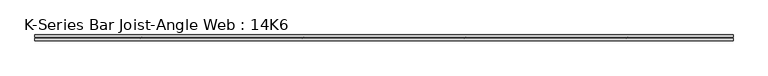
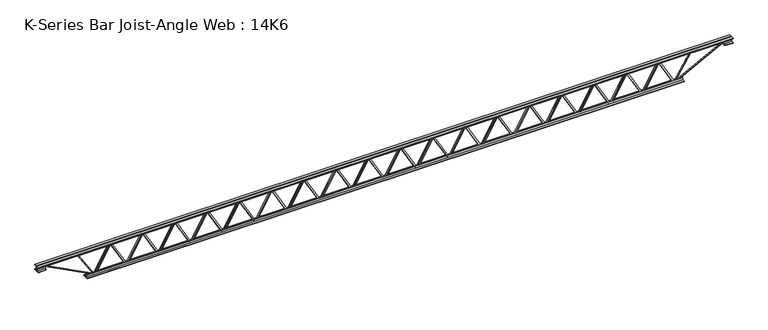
"""IFC4 building model written with IfcOpenShell, lengths in millimetres: beam geometry, K-Series Bar Joist-Angle Web : 14K6."""

from ifc_helpers import new_model, si_unit, frame, origin, place, context, project, spatial, polyline, outline, extrude, faceted_brep, source, transform, mapped, element, save


def k_series_bar_joist_angle_web_14k6_9ea650d1(model_context):
    return source(origin(), model_context, "Body", "SolidModel", [
        extrude(outline(polyline([(-4.7625, 4.7625), (-4.7625, 0.0), (-17.4625, 0.0), (-17.4625, 4.7625), (-4.7625, 4.7625)])), frame((3174.3016592, 0.0, -139.7), z_axis=(-0.4941370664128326, 0.0, 0.8693840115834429), x_axis=(0.0, -1.0, 0.0)), (0.0, 0.0, 1.0), 321.3769707),
        extrude(outline(polyline([(-174.625, 3206.0444444), (-155.575, 3206.0444444), (-155.575, 3205.2366955), (174.625, 3017.5589177), (174.625, 2999.3166667), (155.575, 2999.3166667), (155.575, 3006.4744156), (-174.625, 3194.1521934), (-174.625, 3206.0444444)])), frame((0.0, 0.0, 0.0), z_axis=(0.0, 1.0, 0.0), x_axis=(0.0, 0.0, 1.0)), (0.0, 0.0, 1.0), 4.7625),
        faceted_brep([(2805.2888889, 0.0, -155.575), (2805.2888889, 0.0, -174.625), (2805.2888889, -4.7625, -174.625), (2805.2888889, -4.7625, -155.575), (2806.0966378, 0.0, -155.575), (2993.7744156, 0.0, 174.625), (3012.0166667, 0.0, 174.625), (3012.0166667, 0.0, 155.575), (3004.8589177, 0.0, 155.575), (2817.1811399, 0.0, -174.625), (2817.1811399, -4.7625, -174.625), (2837.0316741, -4.7625, -139.7), (2832.8912328, -4.7625, -137.3466722), (2991.6955063, -4.7625, 142.0533278), (2995.8359476, -4.7625, 139.7), (3004.8589177, -4.7625, 155.575), (3012.0166667, -4.7625, 155.575), (3012.0166667, -4.7625, 174.625), (2993.7744156, -4.7625, 174.625), (2806.0966378, -4.7625, -155.575), (2995.8359476, -17.4625, 139.7), (2837.0316741, -17.4625, -139.7), (2832.8912328, -17.4625, -137.3466722), (2991.6955063, -17.4625, 142.0533278)], [[[0, 1, 2, 3]], [[1, 0, 4, 5, 6, 7, 8, 9]], [[2, 1, 9, 10]], [[3, 2, 10, 11, 12, 13, 14, 15, 16, 17, 18, 19]], [[0, 3, 19, 4]], [[9, 8, 15, 14, 20, 21, 11, 10]], [[5, 4, 19, 18]], [[7, 6, 17, 16]], [[8, 7, 16, 15]], [[6, 5, 18, 17]], [[21, 22, 12, 11]], [[20, 14, 13, 23]], [[22, 21, 20, 23]], [[12, 22, 23, 13]]]),
        extrude(outline(polyline([(-4.7625, 4.7625), (-4.7625, 0.0), (-17.4625, 0.0), (-17.4625, 4.7625), (-4.7625, 4.7625)])), frame((2773.5461037, 0.0, -139.7), z_axis=(-0.4941370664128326, 0.0, 0.8693840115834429), x_axis=(0.0, -1.0, 0.0)), (0.0, 0.0, 1.0), 321.3769707),
        extrude(outline(polyline([(-174.625, 2805.2888889), (-155.575, 2805.2888889), (-155.575, 2804.4811399), (174.625, 2616.8033622), (174.625, 2598.5611111), (155.575, 2598.5611111), (155.575, 2605.7188601), (-174.625, 2793.3966378), (-174.625, 2805.2888889)])), frame((0.0, 0.0, 0.0), z_axis=(0.0, 1.0, 0.0), x_axis=(0.0, 0.0, 1.0)), (0.0, 0.0, 1.0), 4.7625),
        faceted_brep([(2404.5333333, 0.0, -155.575), (2404.5333333, 0.0, -174.625), (2404.5333333, -4.7625, -174.625), (2404.5333333, -4.7625, -155.575), (2405.3410823, 0.0, -155.575), (2593.0188601, 0.0, 174.625), (2611.2611111, 0.0, 174.625), (2611.2611111, 0.0, 155.575), (2604.1033622, 0.0, 155.575), (2416.4255844, 0.0, -174.625), (2416.4255844, -4.7625, -174.625), (2436.2761186, -4.7625, -139.7), (2432.1356772, -4.7625, -137.3466722), (2590.9399507, -4.7625, 142.0533278), (2595.0803921, -4.7625, 139.7), (2604.1033622, -4.7625, 155.575), (2611.2611111, -4.7625, 155.575), (2611.2611111, -4.7625, 174.625), (2593.0188601, -4.7625, 174.625), (2405.3410823, -4.7625, -155.575), (2595.0803921, -17.4625, 139.7), (2436.2761186, -17.4625, -139.7), (2432.1356772, -17.4625, -137.3466722), (2590.9399507, -17.4625, 142.0533278)], [[[0, 1, 2, 3]], [[1, 0, 4, 5, 6, 7, 8, 9]], [[2, 1, 9, 10]], [[3, 2, 10, 11, 12, 13, 14, 15, 16, 17, 18, 19]], [[0, 3, 19, 4]], [[9, 8, 15, 14, 20, 21, 11, 10]], [[5, 4, 19, 18]], [[7, 6, 17, 16]], [[8, 7, 16, 15]], [[6, 5, 18, 17]], [[21, 22, 12, 11]], [[20, 14, 13, 23]], [[22, 21, 20, 23]], [[12, 22, 23, 13]]]),
        extrude(outline(polyline([(-4.7625, 4.7625), (-4.7625, 0.0), (-17.4625, 0.0), (-17.4625, 4.7625), (-4.7625, 4.7625)])), frame((2372.7905481, 0.0, -139.7), z_axis=(-0.4941370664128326, 0.0, 0.8693840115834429), x_axis=(0.0, -1.0, 0.0)), (0.0, 0.0, 1.0), 321.3769707),
        extrude(outline(polyline([(-174.625, 2404.5333333), (-155.575, 2404.5333333), (-155.575, 2403.7255844), (174.625, 2216.0478066), (174.625, 2197.8055556), (155.575, 2197.8055556), (155.575, 2204.9633045), (-174.625, 2392.6410823), (-174.625, 2404.5333333)])), frame((0.0, 0.0, 0.0), z_axis=(0.0, 1.0, 0.0), x_axis=(0.0, 0.0, 1.0)), (0.0, 0.0, 1.0), 4.7625),
        faceted_brep([(2003.7777778, 0.0, -155.575), (2003.7777778, 0.0, -174.625), (2003.7777778, -4.7625, -174.625), (2003.7777778, -4.7625, -155.575), (2004.5855267, 0.0, -155.575), (2192.2633045, 0.0, 174.625), (2210.5055556, 0.0, 174.625), (2210.5055556, 0.0, 155.575), (2203.3478066, 0.0, 155.575), (2015.6700288, 0.0, -174.625), (2015.6700288, -4.7625, -174.625), (2035.520563, -4.7625, -139.7), (2031.3801217, -4.7625, -137.3466722), (2190.1843952, -4.7625, 142.0533278), (2194.3248365, -4.7625, 139.7), (2203.3478066, -4.7625, 155.575), (2210.5055556, -4.7625, 155.575), (2210.5055556, -4.7625, 174.625), (2192.2633045, -4.7625, 174.625), (2004.5855267, -4.7625, -155.575), (2194.3248365, -17.4625, 139.7), (2035.520563, -17.4625, -139.7), (2031.3801217, -17.4625, -137.3466722), (2190.1843952, -17.4625, 142.0533278)], [[[0, 1, 2, 3]], [[1, 0, 4, 5, 6, 7, 8, 9]], [[2, 1, 9, 10]], [[3, 2, 10, 11, 12, 13, 14, 15, 16, 17, 18, 19]], [[0, 3, 19, 4]], [[9, 8, 15, 14, 20, 21, 11, 10]], [[5, 4, 19, 18]], [[7, 6, 17, 16]], [[8, 7, 16, 15]], [[6, 5, 18, 17]], [[21, 22, 12, 11]], [[20, 14, 13, 23]], [[22, 21, 20, 23]], [[12, 22, 23, 13]]]),
        extrude(outline(polyline([(-4.7625, 4.7625), (-4.7625, 0.0), (-17.4625, 0.0), (-17.4625, 4.7625), (-4.7625, 4.7625)])), frame((1972.0349925, 0.0, -139.7), z_axis=(-0.4941370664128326, 0.0, 0.8693840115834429), x_axis=(0.0, -1.0, 0.0)), (0.0, 0.0, 1.0), 321.3769707),
        extrude(outline(polyline([(-174.625, 2003.7777778), (-155.575, 2003.7777778), (-155.575, 2002.9700288), (174.625, 1815.292251), (174.625, 1797.05), (155.575, 1797.05), (155.575, 1804.207749), (-174.625, 1991.8855267), (-174.625, 2003.7777778)])), frame((0.0, 0.0, 0.0), z_axis=(0.0, 1.0, 0.0), x_axis=(0.0, 0.0, 1.0)), (0.0, 0.0, 1.0), 4.7625),
        faceted_brep([(1603.0222222, 0.0, -155.575), (1603.0222222, 0.0, -174.625), (1603.0222222, -4.7625, -174.625), (1603.0222222, -4.7625, -155.575), (1603.8299712, 0.0, -155.575), (1791.507749, 0.0, 174.625), (1809.75, 0.0, 174.625), (1809.75, 0.0, 155.575), (1802.592251, 0.0, 155.575), (1614.9144733, 0.0, -174.625), (1614.9144733, -4.7625, -174.625), (1634.7650075, -4.7625, -139.7), (1630.6245661, -4.7625, -137.3466722), (1789.4288396, -4.7625, 142.0533278), (1793.569281, -4.7625, 139.7), (1802.592251, -4.7625, 155.575), (1809.75, -4.7625, 155.575), (1809.75, -4.7625, 174.625), (1791.507749, -4.7625, 174.625), (1603.8299712, -4.7625, -155.575), (1793.569281, -17.4625, 139.7), (1634.7650075, -17.4625, -139.7), (1630.6245661, -17.4625, -137.3466722), (1789.4288396, -17.4625, 142.0533278)], [[[0, 1, 2, 3]], [[1, 0, 4, 5, 6, 7, 8, 9]], [[2, 1, 9, 10]], [[3, 2, 10, 11, 12, 13, 14, 15, 16, 17, 18, 19]], [[0, 3, 19, 4]], [[9, 8, 15, 14, 20, 21, 11, 10]], [[5, 4, 19, 18]], [[7, 6, 17, 16]], [[8, 7, 16, 15]], [[6, 5, 18, 17]], [[21, 22, 12, 11]], [[20, 14, 13, 23]], [[22, 21, 20, 23]], [[12, 22, 23, 13]]]),
        extrude(outline(polyline([(-4.7625, 4.7625), (-4.7625, 0.0), (-17.4625, 0.0), (-17.4625, 4.7625), (-4.7625, 4.7625)])), frame((1571.279437, 0.0, -139.7), z_axis=(-0.4941370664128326, 0.0, 0.8693840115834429), x_axis=(0.0, -1.0, 0.0)), (0.0, 0.0, 1.0), 321.3769707),
        extrude(outline(polyline([(-174.625, 1603.0222222), (-155.575, 1603.0222222), (-155.575, 1602.2144733), (174.625, 1414.5366955), (174.625, 1396.2944444), (155.575, 1396.2944444), (155.575, 1403.4521934), (-174.625, 1591.1299712), (-174.625, 1603.0222222)])), frame((0.0, 0.0, 0.0), z_axis=(0.0, 1.0, 0.0), x_axis=(0.0, 0.0, 1.0)), (0.0, 0.0, 1.0), 4.7625),
        faceted_brep([(1202.2666667, 0.0, -155.575), (1202.2666667, 0.0, -174.625), (1202.2666667, -4.7625, -174.625), (1202.2666667, -4.7625, -155.575), (1203.0744156, 0.0, -155.575), (1390.7521934, 0.0, 174.625), (1408.9944444, 0.0, 174.625), (1408.9944444, 0.0, 155.575), (1401.8366955, 0.0, 155.575), (1214.1589177, 0.0, -174.625), (1214.1589177, -4.7625, -174.625), (1234.0094519, -4.7625, -139.7), (1229.8690105, -4.7625, -137.3466722), (1388.673284, -4.7625, 142.0533278), (1392.8137254, -4.7625, 139.7), (1401.8366955, -4.7625, 155.575), (1408.9944444, -4.7625, 155.575), (1408.9944444, -4.7625, 174.625), (1390.7521934, -4.7625, 174.625), (1203.0744156, -4.7625, -155.575), (1392.8137254, -17.4625, 139.7), (1234.0094519, -17.4625, -139.7), (1229.8690105, -17.4625, -137.3466722), (1388.673284, -17.4625, 142.0533278)], [[[0, 1, 2, 3]], [[1, 0, 4, 5, 6, 7, 8, 9]], [[2, 1, 9, 10]], [[3, 2, 10, 11, 12, 13, 14, 15, 16, 17, 18, 19]], [[0, 3, 19, 4]], [[9, 8, 15, 14, 20, 21, 11, 10]], [[5, 4, 19, 18]], [[7, 6, 17, 16]], [[8, 7, 16, 15]], [[6, 5, 18, 17]], [[21, 22, 12, 11]], [[20, 14, 13, 23]], [[22, 21, 20, 23]], [[12, 22, 23, 13]]]),
        extrude(outline(polyline([(-4.7625, 4.7625), (-4.7625, 0.0), (-17.4625, 0.0), (-17.4625, 4.7625), (-4.7625, 4.7625)])), frame((1170.5238814, 0.0, -139.7), z_axis=(-0.4941370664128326, 0.0, 0.8693840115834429), x_axis=(0.0, -1.0, 0.0)), (0.0, 0.0, 1.0), 321.3769707),
        extrude(outline(polyline([(-174.625, 1202.2666667), (-155.575, 1202.2666667), (-155.575, 1201.4589177), (174.625, 1013.7811399), (174.625, 995.5388889), (155.575, 995.5388889), (155.575, 1002.6966378), (-174.625, 1190.3744156), (-174.625, 1202.2666667)])), frame((0.0, 0.0, 0.0), z_axis=(0.0, 1.0, 0.0), x_axis=(0.0, 0.0, 1.0)), (0.0, 0.0, 1.0), 4.7625),
        faceted_brep([(801.5111111, 0.0, -155.575), (801.5111111, 0.0, -174.625), (801.5111111, -4.7625, -174.625), (801.5111111, -4.7625, -155.575), (802.3188601, 0.0, -155.575), (989.9966378, 0.0, 174.625), (1008.2388889, 0.0, 174.625), (1008.2388889, 0.0, 155.575), (1001.0811399, 0.0, 155.575), (813.4033622, 0.0, -174.625), (813.4033622, -4.7625, -174.625), (833.2538963, -4.7625, -139.7), (829.113455, -4.7625, -137.3466722), (987.9177285, -4.7625, 142.0533278), (992.0581698, -4.7625, 139.7), (1001.0811399, -4.7625, 155.575), (1008.2388889, -4.7625, 155.575), (1008.2388889, -4.7625, 174.625), (989.9966378, -4.7625, 174.625), (802.3188601, -4.7625, -155.575), (992.0581698, -17.4625, 139.7), (833.2538963, -17.4625, -139.7), (829.113455, -17.4625, -137.3466722), (987.9177285, -17.4625, 142.0533278)], [[[0, 1, 2, 3]], [[1, 0, 4, 5, 6, 7, 8, 9]], [[2, 1, 9, 10]], [[3, 2, 10, 11, 12, 13, 14, 15, 16, 17, 18, 19]], [[0, 3, 19, 4]], [[9, 8, 15, 14, 20, 21, 11, 10]], [[5, 4, 19, 18]], [[7, 6, 17, 16]], [[8, 7, 16, 15]], [[6, 5, 18, 17]], [[21, 22, 12, 11]], [[20, 14, 13, 23]], [[22, 21, 20, 23]], [[12, 22, 23, 13]]]),
        extrude(outline(polyline([(-4.7625, 4.7625), (-4.7625, 0.0), (-17.4625, 0.0), (-17.4625, 4.7625), (-4.7625, 4.7625)])), frame((769.7683259, 0.0, -139.7), z_axis=(-0.4941370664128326, 0.0, 0.8693840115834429), x_axis=(0.0, -1.0, 0.0)), (0.0, 0.0, 1.0), 321.3769707),
        extrude(outline(polyline([(-174.625, 801.5111111), (-155.575, 801.5111111), (-155.575, 800.7033622), (174.625, 613.0255844), (174.625, 594.7833333), (155.575, 594.7833333), (155.575, 601.9410823), (-174.625, 789.6188601), (-174.625, 801.5111111)])), frame((0.0, 0.0, 0.0), z_axis=(0.0, 1.0, 0.0), x_axis=(0.0, 0.0, 1.0)), (0.0, 0.0, 1.0), 4.7625),
        faceted_brep([(400.7555556, 0.0, -155.575), (400.7555556, 0.0, -174.625), (400.7555556, -4.7625, -174.625), (400.7555556, -4.7625, -155.575), (401.5633045, 0.0, -155.575), (589.2410823, 0.0, 174.625), (607.4833333, 0.0, 174.625), (607.4833333, 0.0, 155.575), (600.3255844, 0.0, 155.575), (412.6478066, 0.0, -174.625), (412.6478066, -4.7625, -174.625), (432.4983408, -4.7625, -139.7), (428.3578994, -4.7625, -137.3466722), (587.1621729, -4.7625, 142.0533278), (591.3026143, -4.7625, 139.7), (600.3255844, -4.7625, 155.575), (607.4833333, -4.7625, 155.575), (607.4833333, -4.7625, 174.625), (589.2410823, -4.7625, 174.625), (401.5633045, -4.7625, -155.575), (591.3026143, -17.4625, 139.7), (432.4983408, -17.4625, -139.7), (428.3578994, -17.4625, -137.3466722), (587.1621729, -17.4625, 142.0533278)], [[[0, 1, 2, 3]], [[1, 0, 4, 5, 6, 7, 8, 9]], [[2, 1, 9, 10]], [[3, 2, 10, 11, 12, 13, 14, 15, 16, 17, 18, 19]], [[0, 3, 19, 4]], [[9, 8, 15, 14, 20, 21, 11, 10]], [[5, 4, 19, 18]], [[7, 6, 17, 16]], [[8, 7, 16, 15]], [[6, 5, 18, 17]], [[21, 22, 12, 11]], [[20, 14, 13, 23]], [[22, 21, 20, 23]], [[12, 22, 23, 13]]]),
        extrude(outline(polyline([(-4.7625, 4.7625), (-4.7625, 0.0), (-17.4625, 0.0), (-17.4625, 4.7625), (-4.7625, 4.7625)])), frame((369.0127703, 0.0, -139.7), z_axis=(-0.4941370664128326, 0.0, 0.8693840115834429), x_axis=(0.0, -1.0, 0.0)), (0.0, 0.0, 1.0), 321.3769707),
        extrude(outline(polyline([(-174.625, 400.7555556), (-155.575, 400.7555556), (-155.575, 399.9478066), (174.625, 212.2700288), (174.625, 194.0277778), (155.575, 194.0277778), (155.575, 201.1855267), (-174.625, 388.8633045), (-174.625, 400.7555556)])), frame((0.0, 0.0, 0.0), z_axis=(0.0, 1.0, 0.0), x_axis=(0.0, 0.0, 1.0)), (0.0, 0.0, 1.0), 4.7625),
        faceted_brep([(0.0, 0.0, -155.575), (0.0, 0.0, -174.625), (0.0, -4.7625, -174.625), (0.0, -4.7625, -155.575), (0.807749, 0.0, -155.575), (188.4855267, 0.0, 174.625), (206.7277778, 0.0, 174.625), (206.7277778, 0.0, 155.575), (199.5700288, 0.0, 155.575), (11.892251, 0.0, -174.625), (11.892251, -4.7625, -174.625), (31.7427852, -4.7625, -139.7), (27.6023439, -4.7625, -137.3466722), (186.4066174, -4.7625, 142.0533278), (190.5470587, -4.7625, 139.7), (199.5700288, -4.7625, 155.575), (206.7277778, -4.7625, 155.575), (206.7277778, -4.7625, 174.625), (188.4855267, -4.7625, 174.625), (0.807749, -4.7625, -155.575), (190.5470587, -17.4625, 139.7), (31.7427852, -17.4625, -139.7), (27.6023439, -17.4625, -137.3466722), (186.4066174, -17.4625, 142.0533278)], [[[0, 1, 2, 3]], [[1, 0, 4, 5, 6, 7, 8, 9]], [[2, 1, 9, 10]], [[3, 2, 10, 11, 12, 13, 14, 15, 16, 17, 18, 19]], [[0, 3, 19, 4]], [[9, 8, 15, 14, 20, 21, 11, 10]], [[5, 4, 19, 18]], [[7, 6, 17, 16]], [[8, 7, 16, 15]], [[6, 5, 18, 17]], [[21, 22, 12, 11]], [[20, 14, 13, 23]], [[22, 21, 20, 23]], [[12, 22, 23, 13]]]),
        extrude(outline(polyline([(-4.7625, 4.7625), (-4.7625, 0.0), (-17.4625, 0.0), (-17.4625, 4.7625), (-4.7625, 4.7625)])), frame((-31.7427852, 0.0, -139.7), z_axis=(-0.4941370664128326, 0.0, 0.8693840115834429), x_axis=(0.0, -1.0, 0.0)), (0.0, 0.0, 1.0), 321.3769707),
        extrude(outline(polyline([(-174.625, 0.0), (-155.575, 0.0), (-155.575, -0.807749), (174.625, -188.4855267), (174.625, -206.7277778), (155.575, -206.7277778), (155.575, -199.5700288), (-174.625, -11.892251), (-174.625, 0.0)])), frame((0.0, 0.0, 0.0), z_axis=(0.0, 1.0, 0.0), x_axis=(0.0, 0.0, 1.0)), (0.0, 0.0, 1.0), 4.7625),
        faceted_brep([(-400.7555556, 0.0, -155.575), (-400.7555556, 0.0, -174.625), (-400.7555556, -4.7625, -174.625), (-400.7555556, -4.7625, -155.575), (-399.9478066, 0.0, -155.575), (-212.2700288, 0.0, 174.625), (-194.0277778, 0.0, 174.625), (-194.0277778, 0.0, 155.575), (-201.1855267, 0.0, 155.575), (-388.8633045, 0.0, -174.625), (-388.8633045, -4.7625, -174.625), (-369.0127703, -4.7625, -139.7), (-373.1532117, -4.7625, -137.3466722), (-214.3489382, -4.7625, 142.0533278), (-210.2084968, -4.7625, 139.7), (-201.1855267, -4.7625, 155.575), (-194.0277778, -4.7625, 155.575), (-194.0277778, -4.7625, 174.625), (-212.2700288, -4.7625, 174.625), (-399.9478066, -4.7625, -155.575), (-210.2084968, -17.4625, 139.7), (-369.0127703, -17.4625, -139.7), (-373.1532117, -17.4625, -137.3466722), (-214.3489382, -17.4625, 142.0533278)], [[[0, 1, 2, 3]], [[1, 0, 4, 5, 6, 7, 8, 9]], [[2, 1, 9, 10]], [[3, 2, 10, 11, 12, 13, 14, 15, 16, 17, 18, 19]], [[0, 3, 19, 4]], [[9, 8, 15, 14, 20, 21, 11, 10]], [[5, 4, 19, 18]], [[7, 6, 17, 16]], [[8, 7, 16, 15]], [[6, 5, 18, 17]], [[21, 22, 12, 11]], [[20, 14, 13, 23]], [[22, 21, 20, 23]], [[12, 22, 23, 13]]]),
        extrude(outline(polyline([(-4.7625, 4.7625), (-4.7625, 0.0), (-17.4625, 0.0), (-17.4625, 4.7625), (-4.7625, 4.7625)])), frame((-432.4983408, 0.0, -139.7), z_axis=(-0.4941370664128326, 0.0, 0.8693840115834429), x_axis=(0.0, -1.0, 0.0)), (0.0, 0.0, 1.0), 321.3769707),
        extrude(outline(polyline([(-174.625, -400.7555556), (-155.575, -400.7555556), (-155.575, -401.5633045), (174.625, -589.2410823), (174.625, -607.4833333), (155.575, -607.4833333), (155.575, -600.3255844), (-174.625, -412.6478066), (-174.625, -400.7555556)])), frame((0.0, 0.0, 0.0), z_axis=(0.0, 1.0, 0.0), x_axis=(0.0, 0.0, 1.0)), (0.0, 0.0, 1.0), 4.7625),
        faceted_brep([(-801.5111111, 0.0, -155.575), (-801.5111111, 0.0, -174.625), (-801.5111111, -4.7625, -174.625), (-801.5111111, -4.7625, -155.575), (-800.7033622, 0.0, -155.575), (-613.0255844, 0.0, 174.625), (-594.7833333, 0.0, 174.625), (-594.7833333, 0.0, 155.575), (-601.9410823, 0.0, 155.575), (-789.6188601, 0.0, -174.625), (-789.6188601, -4.7625, -174.625), (-769.7683259, -4.7625, -139.7), (-773.9087672, -4.7625, -137.3466722), (-615.1044937, -4.7625, 142.0533278), (-610.9640524, -4.7625, 139.7), (-601.9410823, -4.7625, 155.575), (-594.7833333, -4.7625, 155.575), (-594.7833333, -4.7625, 174.625), (-613.0255844, -4.7625, 174.625), (-800.7033622, -4.7625, -155.575), (-610.9640524, -17.4625, 139.7), (-769.7683259, -17.4625, -139.7), (-773.9087672, -17.4625, -137.3466722), (-615.1044937, -17.4625, 142.0533278)], [[[0, 1, 2, 3]], [[1, 0, 4, 5, 6, 7, 8, 9]], [[2, 1, 9, 10]], [[3, 2, 10, 11, 12, 13, 14, 15, 16, 17, 18, 19]], [[0, 3, 19, 4]], [[9, 8, 15, 14, 20, 21, 11, 10]], [[5, 4, 19, 18]], [[7, 6, 17, 16]], [[8, 7, 16, 15]], [[6, 5, 18, 17]], [[21, 22, 12, 11]], [[20, 14, 13, 23]], [[22, 21, 20, 23]], [[12, 22, 23, 13]]]),
        extrude(outline(polyline([(-4.7625, 4.7625), (-4.7625, 0.0), (-17.4625, 0.0), (-17.4625, 4.7625), (-4.7625, 4.7625)])), frame((-833.2538963, 0.0, -139.7), z_axis=(-0.4941370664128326, 0.0, 0.8693840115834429), x_axis=(0.0, -1.0, 0.0)), (0.0, 0.0, 1.0), 321.3769707),
        extrude(outline(polyline([(-174.625, -801.5111111), (-155.575, -801.5111111), (-155.575, -802.3188601), (174.625, -989.9966378), (174.625, -1008.2388889), (155.575, -1008.2388889), (155.575, -1001.0811399), (-174.625, -813.4033622), (-174.625, -801.5111111)])), frame((0.0, 0.0, 0.0), z_axis=(0.0, 1.0, 0.0), x_axis=(0.0, 0.0, 1.0)), (0.0, 0.0, 1.0), 4.7625),
        faceted_brep([(-1202.2666667, 0.0, -155.575), (-1202.2666667, 0.0, -174.625), (-1202.2666667, -4.7625, -174.625), (-1202.2666667, -4.7625, -155.575), (-1201.4589177, 0.0, -155.575), (-1013.7811399, 0.0, 174.625), (-995.5388889, 0.0, 174.625), (-995.5388889, 0.0, 155.575), (-1002.6966378, 0.0, 155.575), (-1190.3744156, 0.0, -174.625), (-1190.3744156, -4.7625, -174.625), (-1170.5238814, -4.7625, -139.7), (-1174.6643228, -4.7625, -137.3466722), (-1015.8600493, -4.7625, 142.0533278), (-1011.7196079, -4.7625, 139.7), (-1002.6966378, -4.7625, 155.575), (-995.5388889, -4.7625, 155.575), (-995.5388889, -4.7625, 174.625), (-1013.7811399, -4.7625, 174.625), (-1201.4589177, -4.7625, -155.575), (-1011.7196079, -17.4625, 139.7), (-1170.5238814, -17.4625, -139.7), (-1174.6643228, -17.4625, -137.3466722), (-1015.8600493, -17.4625, 142.0533278)], [[[0, 1, 2, 3]], [[1, 0, 4, 5, 6, 7, 8, 9]], [[2, 1, 9, 10]], [[3, 2, 10, 11, 12, 13, 14, 15, 16, 17, 18, 19]], [[0, 3, 19, 4]], [[9, 8, 15, 14, 20, 21, 11, 10]], [[5, 4, 19, 18]], [[7, 6, 17, 16]], [[8, 7, 16, 15]], [[6, 5, 18, 17]], [[21, 22, 12, 11]], [[20, 14, 13, 23]], [[22, 21, 20, 23]], [[12, 22, 23, 13]]]),
        extrude(outline(polyline([(-4.7625, 4.7625), (-4.7625, 0.0), (-17.4625, 0.0), (-17.4625, 4.7625), (-4.7625, 4.7625)])), frame((-1234.0094519, 0.0, -139.7), z_axis=(-0.4941370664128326, 0.0, 0.8693840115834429), x_axis=(0.0, -1.0, 0.0)), (0.0, 0.0, 1.0), 321.3769707),
        extrude(outline(polyline([(-174.625, -1202.2666667), (-155.575, -1202.2666667), (-155.575, -1203.0744156), (174.625, -1390.7521934), (174.625, -1408.9944444), (155.575, -1408.9944444), (155.575, -1401.8366955), (-174.625, -1214.1589177), (-174.625, -1202.2666667)])), frame((0.0, 0.0, 0.0), z_axis=(0.0, 1.0, 0.0), x_axis=(0.0, 0.0, 1.0)), (0.0, 0.0, 1.0), 4.7625),
        faceted_brep([(-1603.0222222, 0.0, -155.575), (-1603.0222222, 0.0, -174.625), (-1603.0222222, -4.7625, -174.625), (-1603.0222222, -4.7625, -155.575), (-1602.2144733, 0.0, -155.575), (-1414.5366955, 0.0, 174.625), (-1396.2944444, 0.0, 174.625), (-1396.2944444, 0.0, 155.575), (-1403.4521934, 0.0, 155.575), (-1591.1299712, 0.0, -174.625), (-1591.1299712, -4.7625, -174.625), (-1571.279437, -4.7625, -139.7), (-1575.4198783, -4.7625, -137.3466722), (-1416.6156048, -4.7625, 142.0533278), (-1412.4751635, -4.7625, 139.7), (-1403.4521934, -4.7625, 155.575), (-1396.2944444, -4.7625, 155.575), (-1396.2944444, -4.7625, 174.625), (-1414.5366955, -4.7625, 174.625), (-1602.2144733, -4.7625, -155.575), (-1412.4751635, -17.4625, 139.7), (-1571.279437, -17.4625, -139.7), (-1575.4198783, -17.4625, -137.3466722), (-1416.6156048, -17.4625, 142.0533278)], [[[0, 1, 2, 3]], [[1, 0, 4, 5, 6, 7, 8, 9]], [[2, 1, 9, 10]], [[3, 2, 10, 11, 12, 13, 14, 15, 16, 17, 18, 19]], [[0, 3, 19, 4]], [[9, 8, 15, 14, 20, 21, 11, 10]], [[5, 4, 19, 18]], [[7, 6, 17, 16]], [[8, 7, 16, 15]], [[6, 5, 18, 17]], [[21, 22, 12, 11]], [[20, 14, 13, 23]], [[22, 21, 20, 23]], [[12, 22, 23, 13]]]),
        extrude(outline(polyline([(-4.7625, 4.7625), (-4.7625, 0.0), (-17.4625, 0.0), (-17.4625, 4.7625), (-4.7625, 4.7625)])), frame((-1634.7650075, 0.0, -139.7), z_axis=(-0.4941370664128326, 0.0, 0.8693840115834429), x_axis=(0.0, -1.0, 0.0)), (0.0, 0.0, 1.0), 321.3769707),
        extrude(outline(polyline([(-174.625, -1603.0222222), (-155.575, -1603.0222222), (-155.575, -1603.8299712), (174.625, -1791.507749), (174.625, -1809.75), (155.575, -1809.75), (155.575, -1802.592251), (-174.625, -1614.9144733), (-174.625, -1603.0222222)])), frame((0.0, 0.0, 0.0), z_axis=(0.0, 1.0, 0.0), x_axis=(0.0, 0.0, 1.0)), (0.0, 0.0, 1.0), 4.7625),
        faceted_brep([(-2003.7777778, 0.0, -155.575), (-2003.7777778, 0.0, -174.625), (-2003.7777778, -4.7625, -174.625), (-2003.7777778, -4.7625, -155.575), (-2002.9700288, 0.0, -155.575), (-1815.292251, 0.0, 174.625), (-1797.05, 0.0, 174.625), (-1797.05, 0.0, 155.575), (-1804.207749, 0.0, 155.575), (-1991.8855267, 0.0, -174.625), (-1991.8855267, -4.7625, -174.625), (-1972.0349925, -4.7625, -139.7), (-1976.1754339, -4.7625, -137.3466722), (-1817.3711604, -4.7625, 142.0533278), (-1813.230719, -4.7625, 139.7), (-1804.207749, -4.7625, 155.575), (-1797.05, -4.7625, 155.575), (-1797.05, -4.7625, 174.625), (-1815.292251, -4.7625, 174.625), (-2002.9700288, -4.7625, -155.575), (-1813.230719, -17.4625, 139.7), (-1972.0349925, -17.4625, -139.7), (-1976.1754339, -17.4625, -137.3466722), (-1817.3711604, -17.4625, 142.0533278)], [[[0, 1, 2, 3]], [[1, 0, 4, 5, 6, 7, 8, 9]], [[2, 1, 9, 10]], [[3, 2, 10, 11, 12, 13, 14, 15, 16, 17, 18, 19]], [[0, 3, 19, 4]], [[9, 8, 15, 14, 20, 21, 11, 10]], [[5, 4, 19, 18]], [[7, 6, 17, 16]], [[8, 7, 16, 15]], [[6, 5, 18, 17]], [[21, 22, 12, 11]], [[20, 14, 13, 23]], [[22, 21, 20, 23]], [[12, 22, 23, 13]]]),
        extrude(outline(polyline([(-4.7625, 4.7625), (-4.7625, 0.0), (-17.4625, 0.0), (-17.4625, 4.7625), (-4.7625, 4.7625)])), frame((-2035.520563, 0.0, -139.7), z_axis=(-0.4941370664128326, 0.0, 0.8693840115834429), x_axis=(0.0, -1.0, 0.0)), (0.0, 0.0, 1.0), 321.3769707),
        extrude(outline(polyline([(-174.625, -2003.7777778), (-155.575, -2003.7777778), (-155.575, -2004.5855267), (174.625, -2192.2633045), (174.625, -2210.5055556), (155.575, -2210.5055556), (155.575, -2203.3478066), (-174.625, -2015.6700288), (-174.625, -2003.7777778)])), frame((0.0, 0.0, 0.0), z_axis=(0.0, 1.0, 0.0), x_axis=(0.0, 0.0, 1.0)), (0.0, 0.0, 1.0), 4.7625),
        faceted_brep([(-2404.5333333, 0.0, -155.575), (-2404.5333333, 0.0, -174.625), (-2404.5333333, -4.7625, -174.625), (-2404.5333333, -4.7625, -155.575), (-2403.7255844, 0.0, -155.575), (-2216.0478066, 0.0, 174.625), (-2197.8055556, 0.0, 174.625), (-2197.8055556, 0.0, 155.575), (-2204.9633045, 0.0, 155.575), (-2392.6410823, 0.0, -174.625), (-2392.6410823, -4.7625, -174.625), (-2372.7905481, -4.7625, -139.7), (-2376.9309895, -4.7625, -137.3466722), (-2218.126716, -4.7625, 142.0533278), (-2213.9862746, -4.7625, 139.7), (-2204.9633045, -4.7625, 155.575), (-2197.8055556, -4.7625, 155.575), (-2197.8055556, -4.7625, 174.625), (-2216.0478066, -4.7625, 174.625), (-2403.7255844, -4.7625, -155.575), (-2213.9862746, -17.4625, 139.7), (-2372.7905481, -17.4625, -139.7), (-2376.9309895, -17.4625, -137.3466722), (-2218.126716, -17.4625, 142.0533278)], [[[0, 1, 2, 3]], [[1, 0, 4, 5, 6, 7, 8, 9]], [[2, 1, 9, 10]], [[3, 2, 10, 11, 12, 13, 14, 15, 16, 17, 18, 19]], [[0, 3, 19, 4]], [[9, 8, 15, 14, 20, 21, 11, 10]], [[5, 4, 19, 18]], [[7, 6, 17, 16]], [[8, 7, 16, 15]], [[6, 5, 18, 17]], [[21, 22, 12, 11]], [[20, 14, 13, 23]], [[22, 21, 20, 23]], [[12, 22, 23, 13]]]),
        extrude(outline(polyline([(-4.7625, 4.7625), (-4.7625, 0.0), (-17.4625, 0.0), (-17.4625, 4.7625), (-4.7625, 4.7625)])), frame((-2436.2761186, 0.0, -139.7), z_axis=(-0.4941370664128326, 0.0, 0.8693840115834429), x_axis=(0.0, -1.0, 0.0)), (0.0, 0.0, 1.0), 321.3769707),
        extrude(outline(polyline([(-174.625, -2404.5333333), (-155.575, -2404.5333333), (-155.575, -2405.3410823), (174.625, -2593.0188601), (174.625, -2611.2611111), (155.575, -2611.2611111), (155.575, -2604.1033622), (-174.625, -2416.4255844), (-174.625, -2404.5333333)])), frame((0.0, 0.0, 0.0), z_axis=(0.0, 1.0, 0.0), x_axis=(0.0, 0.0, 1.0)), (0.0, 0.0, 1.0), 4.7625),
        faceted_brep([(-2805.2888889, 0.0, -155.575), (-2805.2888889, 0.0, -174.625), (-2805.2888889, -4.7625, -174.625), (-2805.2888889, -4.7625, -155.575), (-2804.4811399, 0.0, -155.575), (-2616.8033622, 0.0, 174.625), (-2598.5611111, 0.0, 174.625), (-2598.5611111, 0.0, 155.575), (-2605.7188601, 0.0, 155.575), (-2793.3966378, 0.0, -174.625), (-2793.3966378, -4.7625, -174.625), (-2773.5461037, -4.7625, -139.7), (-2777.686545, -4.7625, -137.3466722), (-2618.8822715, -4.7625, 142.0533278), (-2614.7418302, -4.7625, 139.7), (-2605.7188601, -4.7625, 155.575), (-2598.5611111, -4.7625, 155.575), (-2598.5611111, -4.7625, 174.625), (-2616.8033622, -4.7625, 174.625), (-2804.4811399, -4.7625, -155.575), (-2614.7418302, -17.4625, 139.7), (-2773.5461037, -17.4625, -139.7), (-2777.686545, -17.4625, -137.3466722), (-2618.8822715, -17.4625, 142.0533278)], [[[0, 1, 2, 3]], [[1, 0, 4, 5, 6, 7, 8, 9]], [[2, 1, 9, 10]], [[3, 2, 10, 11, 12, 13, 14, 15, 16, 17, 18, 19]], [[0, 3, 19, 4]], [[9, 8, 15, 14, 20, 21, 11, 10]], [[5, 4, 19, 18]], [[7, 6, 17, 16]], [[8, 7, 16, 15]], [[6, 5, 18, 17]], [[21, 22, 12, 11]], [[20, 14, 13, 23]], [[22, 21, 20, 23]], [[12, 22, 23, 13]]]),
        extrude(outline(polyline([(-4.7625, 4.7625), (-4.7625, 0.0), (-17.4625, 0.0), (-17.4625, 4.7625), (-4.7625, 4.7625)])), frame((-2837.0316741, 0.0, -139.7), z_axis=(-0.4941370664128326, 0.0, 0.8693840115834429), x_axis=(0.0, -1.0, 0.0)), (0.0, 0.0, 1.0), 321.3769707),
        extrude(outline(polyline([(-174.625, -2805.2888889), (-155.575, -2805.2888889), (-155.575, -2806.0966378), (174.625, -2993.7744156), (174.625, -3012.0166667), (155.575, -3012.0166667), (155.575, -3004.8589177), (-174.625, -2817.1811399), (-174.625, -2805.2888889)])), frame((0.0, 0.0, 0.0), z_axis=(0.0, 1.0, 0.0), x_axis=(0.0, 0.0, 1.0)), (0.0, 0.0, 1.0), 4.7625),
        faceted_brep([(-3206.0444444, 0.0, -155.575), (-3206.0444444, 0.0, -174.625), (-3206.0444444, -4.7625, -174.625), (-3206.0444444, -4.7625, -155.575), (-3205.2366955, 0.0, -155.575), (-3017.5589177, 0.0, 174.625), (-2999.3166667, 0.0, 174.625), (-2999.3166667, 0.0, 155.575), (-3006.4744156, 0.0, 155.575), (-3194.1521934, 0.0, -174.625), (-3194.1521934, -4.7625, -174.625), (-3174.3016592, -4.7625, -139.7), (-3178.4421006, -4.7625, -137.3466722), (-3019.6378271, -4.7625, 142.0533278), (-3015.4973857, -4.7625, 139.7), (-3006.4744156, -4.7625, 155.575), (-2999.3166667, -4.7625, 155.575), (-2999.3166667, -4.7625, 174.625), (-3017.5589177, -4.7625, 174.625), (-3205.2366955, -4.7625, -155.575), (-3015.4973857, -17.4625, 139.7), (-3174.3016592, -17.4625, -139.7), (-3178.4421006, -17.4625, -137.3466722), (-3019.6378271, -17.4625, 142.0533278)], [[[0, 1, 2, 3]], [[1, 0, 4, 5, 6, 7, 8, 9]], [[2, 1, 9, 10]], [[3, 2, 10, 11, 12, 13, 14, 15, 16, 17, 18, 19]], [[0, 3, 19, 4]], [[9, 8, 15, 14, 20, 21, 11, 10]], [[5, 4, 19, 18]], [[7, 6, 17, 16]], [[8, 7, 16, 15]], [[6, 5, 18, 17]], [[21, 22, 12, 11]], [[20, 14, 13, 23]], [[22, 21, 20, 23]], [[12, 22, 23, 13]]]),
        extrude(outline(polyline([(-4.7625, 4.7625), (-4.7625, 0.0), (-17.4625, 0.0), (-17.4625, 4.7625), (-4.7625, 4.7625)])), frame((3575.0572148, 0.0, -139.7), z_axis=(-0.4941370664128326, 0.0, 0.8693840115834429), x_axis=(0.0, -1.0, 0.0)), (0.0, 0.0, 1.0), 321.3769707),
        extrude(outline(polyline([(-174.625, 3606.8), (-155.575, 3606.8), (-155.575, 3605.992251), (174.625, 3418.3144733), (174.625, 3400.0722222), (155.575, 3400.0722222), (155.575, 3407.2299712), (-174.625, 3594.907749), (-174.625, 3606.8)])), frame((0.0, 0.0, 0.0), z_axis=(0.0, 1.0, 0.0), x_axis=(0.0, 0.0, 1.0)), (0.0, 0.0, 1.0), 4.7625),
        faceted_brep([(3206.0444444, 0.0, -155.575), (3206.0444444, 0.0, -174.625), (3206.0444444, -4.7625, -174.625), (3206.0444444, -4.7625, -155.575), (3206.8521934, 0.0, -155.575), (3394.5299712, 0.0, 174.625), (3412.7722222, 0.0, 174.625), (3412.7722222, 0.0, 155.575), (3405.6144733, 0.0, 155.575), (3217.9366955, 0.0, -174.625), (3217.9366955, -4.7625, -174.625), (3237.7872297, -4.7625, -139.7), (3233.6467883, -4.7625, -137.3466722), (3392.4510618, -4.7625, 142.0533278), (3396.5915032, -4.7625, 139.7), (3405.6144733, -4.7625, 155.575), (3412.7722222, -4.7625, 155.575), (3412.7722222, -4.7625, 174.625), (3394.5299712, -4.7625, 174.625), (3206.8521934, -4.7625, -155.575), (3396.5915032, -17.4625, 139.7), (3237.7872297, -17.4625, -139.7), (3233.6467883, -17.4625, -137.3466722), (3392.4510618, -17.4625, 142.0533278)], [[[0, 1, 2, 3]], [[1, 0, 4, 5, 6, 7, 8, 9]], [[2, 1, 9, 10]], [[3, 2, 10, 11, 12, 13, 14, 15, 16, 17, 18, 19]], [[0, 3, 19, 4]], [[9, 8, 15, 14, 20, 21, 11, 10]], [[5, 4, 19, 18]], [[7, 6, 17, 16]], [[8, 7, 16, 15]], [[6, 5, 18, 17]], [[21, 22, 12, 11]], [[20, 14, 13, 23]], [[22, 21, 20, 23]], [[12, 22, 23, 13]]]),
        extrude(outline(polyline([(-4.7625, 4.7625), (-4.7625, 0.0), (-17.4625, 0.0), (-17.4625, 4.7625), (-4.7625, 4.7625)])), frame((-3237.7872297, 0.0, -139.7), z_axis=(-0.4941370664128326, 0.0, 0.8693840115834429), x_axis=(0.0, -1.0, 0.0)), (0.0, 0.0, 1.0), 321.3769707),
        extrude(outline(polyline([(-174.625, -3206.0444444), (-155.575, -3206.0444444), (-155.575, -3206.8521934), (174.625, -3394.5299712), (174.625, -3412.7722222), (155.575, -3412.7722222), (155.575, -3405.6144733), (-174.625, -3217.9366955), (-174.625, -3206.0444444)])), frame((0.0, 0.0, 0.0), z_axis=(0.0, 1.0, 0.0), x_axis=(0.0, 0.0, 1.0)), (0.0, 0.0, 1.0), 4.7625),
        faceted_brep([(-3606.8, 0.0, -155.575), (-3606.8, 0.0, -174.625), (-3606.8, -4.7625, -174.625), (-3606.8, -4.7625, -155.575), (-3605.992251, 0.0, -155.575), (-3418.3144733, 0.0, 174.625), (-3400.0722222, 0.0, 174.625), (-3400.0722222, 0.0, 155.575), (-3407.2299712, 0.0, 155.575), (-3594.907749, 0.0, -174.625), (-3594.907749, -4.7625, -174.625), (-3575.0572148, -4.7625, -139.7), (-3579.1976561, -4.7625, -137.3466722), (-3420.3933826, -4.7625, 142.0533278), (-3416.2529413, -4.7625, 139.7), (-3407.2299712, -4.7625, 155.575), (-3400.0722222, -4.7625, 155.575), (-3400.0722222, -4.7625, 174.625), (-3418.3144733, -4.7625, 174.625), (-3605.992251, -4.7625, -155.575), (-3416.2529413, -17.4625, 139.7), (-3575.0572148, -17.4625, -139.7), (-3579.1976561, -17.4625, -137.3466722), (-3420.3933826, -17.4625, 142.0533278)], [[[0, 1, 2, 3]], [[1, 0, 4, 5, 6, 7, 8, 9]], [[2, 1, 9, 10]], [[3, 2, 10, 11, 12, 13, 14, 15, 16, 17, 18, 19]], [[0, 3, 19, 4]], [[9, 8, 15, 14, 20, 21, 11, 10]], [[5, 4, 19, 18]], [[7, 6, 17, 16]], [[8, 7, 16, 15]], [[6, 5, 18, 17]], [[21, 22, 12, 11]], [[20, 14, 13, 23]], [[22, 21, 20, 23]], [[12, 22, 23, 13]]]),
        extrude(outline(polyline([(4.7625, 177.8), (36.5125, 177.8), (36.5125, 171.45), (11.1125, 171.45), (11.1125, 146.05), (4.7625, 146.05), (4.7625, 177.8)])), frame((-4318.0, 0.0, 0.0), z_axis=(1.0, 0.0, 0.0), x_axis=(0.0, 1.0, 0.0)), (0.0, 0.0, 1.0), 8636.0),
        extrude(outline(polyline([(-4.7625, 177.8), (-4.7625, 146.05), (-11.1125, 146.05), (-11.1125, 171.45), (-36.5125, 171.45), (-36.5125, 177.8), (-4.7625, 177.8)])), frame((-4318.0, 0.0, 0.0), z_axis=(1.0, 0.0, 0.0), x_axis=(0.0, 1.0, 0.0)), (0.0, 0.0, 1.0), 8636.0),
        extrude(outline(polyline([(-4.7625, 114.3), (-36.5125, 114.3), (-36.5125, 120.65), (-11.1125, 120.65), (-11.1125, 146.05), (-4.7625, 146.05), (-4.7625, 114.3)])), frame((-4318.0, 0.0, 0.0), z_axis=(1.0, 0.0, 0.0), x_axis=(0.0, 1.0, 0.0)), (0.0, 0.0, 1.0), 101.6),
        extrude(outline(polyline([(36.5125, 114.3), (4.7625, 114.3), (4.7625, 146.05), (11.1125, 146.05), (11.1125, 120.65), (36.5125, 120.65), (36.5125, 114.3)])), frame((-4318.0, 0.0, 0.0), z_axis=(1.0, 0.0, 0.0), x_axis=(0.0, 1.0, 0.0)), (0.0, 0.0, 1.0), 101.6),
        extrude(outline(polyline([(4.7625, 114.3), (4.7625, 146.05), (11.1125, 146.05), (11.1125, 120.65), (36.5125, 120.65), (36.5125, 114.3), (4.7625, 114.3)])), frame((4216.4, 0.0, 0.0), z_axis=(1.0, 0.0, 0.0), x_axis=(0.0, 1.0, 0.0)), (0.0, 0.0, 1.0), 101.6),
        extrude(outline(polyline([(-4.7625, 114.3), (-36.5125, 114.3), (-36.5125, 120.65), (-11.1125, 120.65), (-11.1125, 146.05), (-4.7625, 146.05), (-4.7625, 114.3)])), frame((4216.4, 0.0, 0.0), z_axis=(1.0, 0.0, 0.0), x_axis=(0.0, 1.0, 0.0)), (0.0, 0.0, 1.0), 101.6),
        extrude(outline(polyline([(4.7625, -177.8), (4.7625, -146.05), (11.1125, -146.05), (11.1125, -171.45), (36.5125, -171.45), (36.5125, -177.8), (4.7625, -177.8)])), frame((-3708.4, 0.0, 0.0), z_axis=(1.0, 0.0, 0.0), x_axis=(0.0, 1.0, 0.0)), (0.0, 0.0, 1.0), 7416.8),
        extrude(outline(polyline([(-4.7625, -177.8), (-36.5125, -177.8), (-36.5125, -171.45), (-11.1125, -171.45), (-11.1125, -146.05), (-4.7625, -146.05), (-4.7625, -177.8)])), frame((-3708.4, 0.0, 0.0), z_axis=(1.0, 0.0, 0.0), x_axis=(0.0, 1.0, 0.0)), (0.0, 0.0, 1.0), 7416.8),
        extrude(outline(polyline([(4.7625, 4.7625001), (4.7625, -4.7625001), (-4.7625, -4.7625001), (-4.7625, 4.7625001), (4.7625, 4.7625001)])), frame((3606.8, 0.0, -171.45), z_axis=(0.53371014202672, 0.0, 0.845667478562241), x_axis=(0.0, -1.0, 0.0)), (0.0, 0.0, 1.0), 375.4430767),
        extrude(outline(polyline([(4.7625, 4.7625001), (4.7625, -4.7625001), (-4.7625, -4.7625001), (-4.7625, 4.7625001), (4.7625, 4.7625001)])), frame((-3606.8, 0.0, -171.45), z_axis=(-0.533710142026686, 0.0, 0.8456674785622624), x_axis=(0.0, -1.0, 0.0)), (0.0, 0.0, 1.0), 375.4430767),
        extrude(outline(polyline([(0.0, -9.525), (0.0, 0.0), (687.3270037, 0.0), (687.3270037, -9.525), (0.0, -9.525)])), frame((4218.5999627, -4.7625, 141.8260717), z_axis=(-0.46193441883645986, 0.0, 0.8869140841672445), x_axis=(-0.8869140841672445, 0.0, -0.46193441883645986)), (0.0, 0.0, 1.0), 9.525),
        extrude(outline(polyline([(0.0, -9.525), (0.0, 0.0), (687.3270037, 0.0), (687.3270037, -9.525), (0.0, -9.525)])), frame((-4218.5999627, 4.7625, 141.8260717), z_axis=(0.4619344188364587, 0.0, 0.8869140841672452), x_axis=(0.8869140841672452, 0.0, -0.4619344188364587)), (0.0, 0.0, 1.0), 9.525),
    ])


if __name__ == "__main__":
    model = new_model("IFC4")
    model_context = context("Model", 3, world=origin())
    ifc_project = project(units=[si_unit("LENGTHUNIT", "METRE", prefix="MILLI")], contexts=[model_context])
    site = spatial("IfcSite", under=ifc_project)
    building = spatial("IfcBuilding", under=site)
    placement = place(None, origin())
    k_series_bar_joist_angle_web_14k6_shape = k_series_bar_joist_angle_web_14k6_9ea650d1(model_context)
    element("IfcBeam", 1, ObjectType="K-Series Bar Joist-Angle Web : 14K6", at=placement, inside=building, context=model_context, shape_type="MappedRepresentation", body=[
        mapped(k_series_bar_joist_angle_web_14k6_shape, transform((0.0, 0.0, 0.0), x_axis=(1.0, 0.0, 0.0), y_axis=(0.0, 1.0, 0.0), z_axis=(0.0, 0.0, 1.0))),
    ])
    save(model, "model.ifc")
